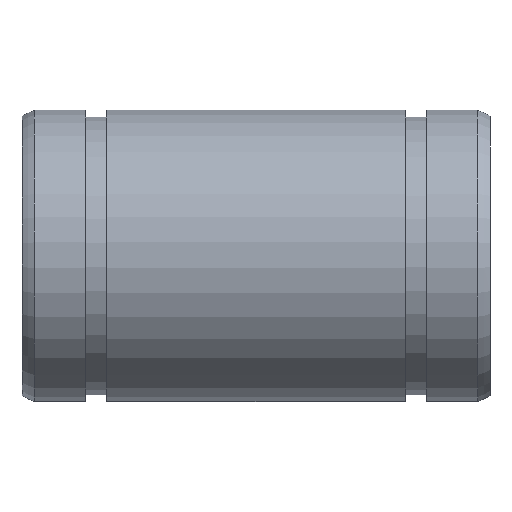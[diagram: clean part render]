
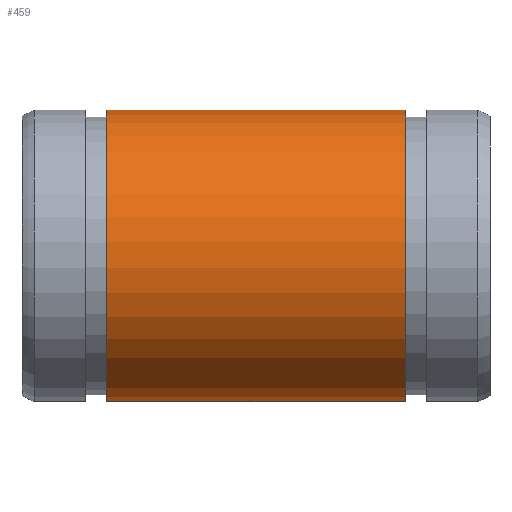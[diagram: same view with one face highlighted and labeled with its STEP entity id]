
A CAD part, front view. The second image highlights one B-rep face of the part: STEP entity #459.
In plain terms, the highlighted cylindrical face has radius 7.5 mm (diameter 15 mm), a partial arc.
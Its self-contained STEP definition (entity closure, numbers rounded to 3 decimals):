
#87=CARTESIAN_POINT('',(4.35,0.75,-7.462));
#88=VERTEX_POINT('',#87);
#95=CARTESIAN_POINT('',(19.65,0.75,-7.462));
#96=VERTEX_POINT('',#95);
#97=CARTESIAN_POINT('',(19.65,0.75,-7.462));
#98=DIRECTION('',(-1.0,0.0,0.0));
#99=VECTOR('',#98,15.3);
#100=LINE('',#97,#99);
#101=EDGE_CURVE('',#96,#88,#100,.T.);
#315=CARTESIAN_POINT('',(19.65,-0.75,-7.462));
#316=VERTEX_POINT('',#315);
#323=CARTESIAN_POINT('',(4.35,-0.75,-7.462));
#324=VERTEX_POINT('',#323);
#325=CARTESIAN_POINT('',(4.35,-0.75,-7.462));
#326=DIRECTION('',(1.0,0.0,0.0));
#327=VECTOR('',#326,15.3);
#328=LINE('',#325,#327);
#329=EDGE_CURVE('',#324,#316,#328,.T.);
#430=CARTESIAN_POINT('',(4.35,0.0,0.));
#431=DIRECTION('',(-1.0,0.0,0.0));
#432=DIRECTION('',(0.0,0.0,1.0));
#433=AXIS2_PLACEMENT_3D('',#430,#431,#432);
#434=CIRCLE('',#433,7.5);
#435=EDGE_CURVE('',#324,#88,#434,.T.);
#442=CARTESIAN_POINT('',(12.,0.0,0.));
#443=DIRECTION('',(-1.0,0.0,0.0));
#444=DIRECTION('',(0.0,0.0,1.0));
#445=AXIS2_PLACEMENT_3D('',#442,#443,#444);
#446=CYLINDRICAL_SURFACE('',#445,7.5);
#447=ORIENTED_EDGE('',*,*,#329,.T.);
#448=CARTESIAN_POINT('',(19.65,0.0,0.));
#449=DIRECTION('',(-1.0,0.0,0.0));
#450=DIRECTION('',(0.0,0.0,1.0));
#451=AXIS2_PLACEMENT_3D('',#448,#449,#450);
#452=CIRCLE('',#451,7.5);
#453=EDGE_CURVE('',#316,#96,#452,.T.);
#454=ORIENTED_EDGE('',*,*,#453,.T.);
#455=ORIENTED_EDGE('',*,*,#101,.T.);
#456=ORIENTED_EDGE('',*,*,#435,.F.);
#457=EDGE_LOOP('',(#447,#454,#455,#456));
#458=FACE_OUTER_BOUND('',#457,.T.);
#459=ADVANCED_FACE('',(#458),#446,.T.);
